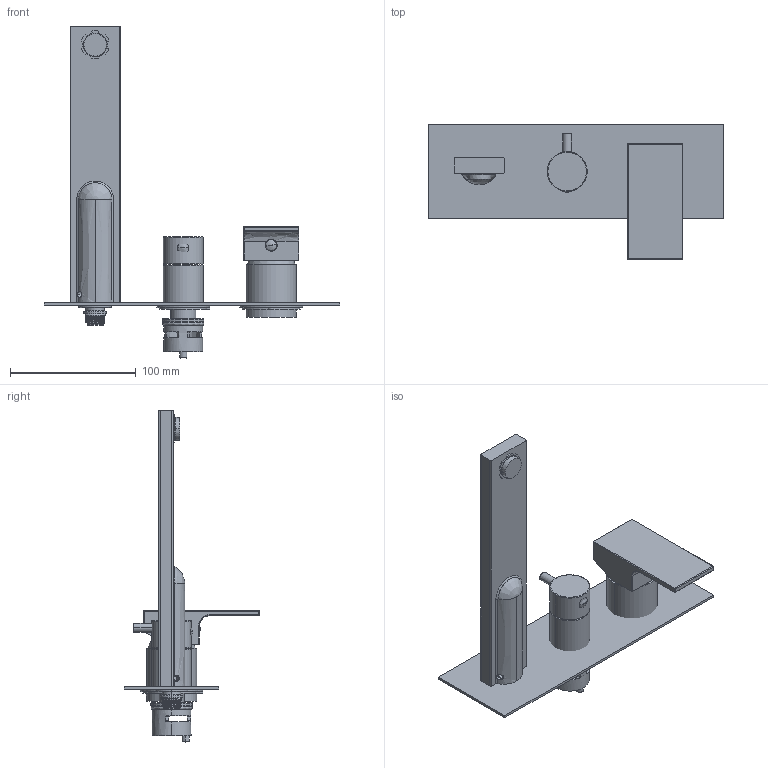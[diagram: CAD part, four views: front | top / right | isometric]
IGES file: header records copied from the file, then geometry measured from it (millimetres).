
Start section:  PTC IGES file: 35528v2_sw0001.igs
Global section: file name: 35528v2_sw0001.igs; native system: Creo Parametric by PTC Inc.; preprocessor: 2022014; author: volponeff; organization: Unknown; date: 20230601.105712; units: millimetre
Bounding box: 235 x 107.5 x 264.1 mm (x, y, z)
Surface area: 112034.4 mm2 (no closed solid volume)
Topology: 0 solids, 0 shells, 308 faces, 1503 edges, 1498 vertices
Faces by surface type: revolution 202, bspline 106
